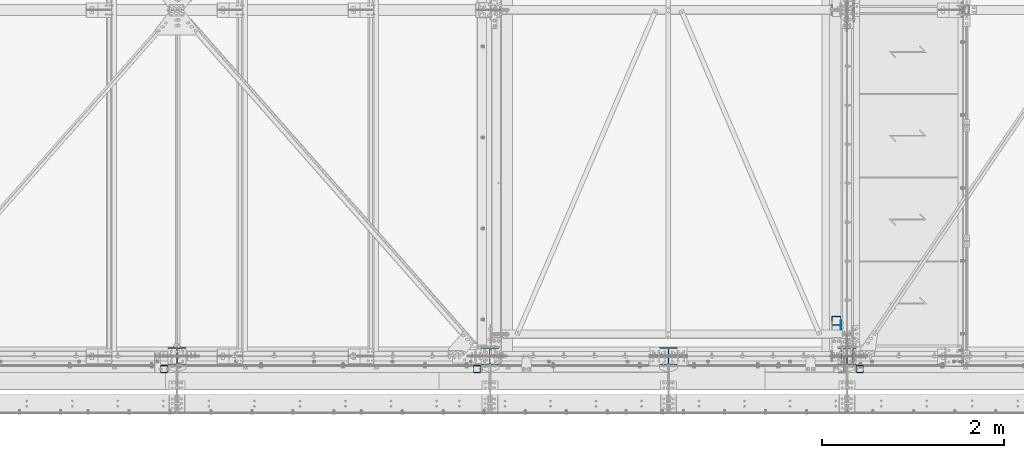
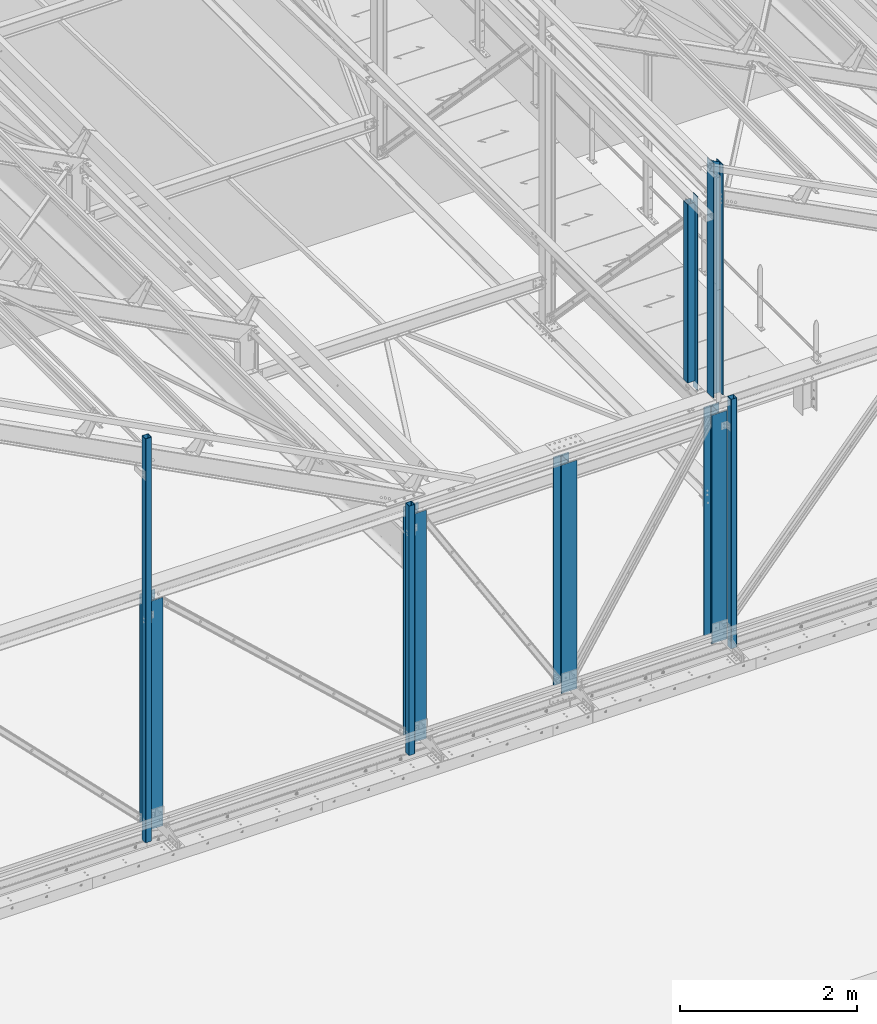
# One storey, part 8 of 362: 10 columns, 9 elements without a shape of their own.
"""IFC2X3 building model written with IfcOpenShell, lengths in millimetres."""

from ifc_helpers import new_model, si_unit, frame, origin_with_axes, origin_2d_with_axis, place, context, subcontext, project, spatial, rectangle, hollow_rectangle, i_section, extrude, clip, halfspace, material, type_object, element, aggregate, save


model = new_model("IFC2X3")

# Units and contexts
model_context = context("Model", 3, precision=1e-05, world=origin_with_axes())
body_context = subcontext(model_context, "Body", "Model", "MODEL_VIEW")
ifc_project = project(units=[si_unit("LENGTHUNIT", "METRE", prefix="MILLI"), si_unit("AREAUNIT", "SQUARE_METRE"), si_unit("VOLUMEUNIT", "CUBIC_METRE"), si_unit("MASSUNIT", "GRAM", prefix="KILO"), si_unit("TIMEUNIT", "SECOND"), si_unit("PLANEANGLEUNIT", "RADIAN"), si_unit("SOLIDANGLEUNIT", "STERADIAN"), si_unit("THERMODYNAMICTEMPERATUREUNIT", "DEGREE_CELSIUS"), si_unit("LUMINOUSINTENSITYUNIT", "LUMEN")], contexts=[model_context])

# Site, building, storey
site_placement = place(None, origin_with_axes())
site = spatial("IfcSite", under=ifc_project, at=site_placement, Name="Undefined", CompositionType="ELEMENT")
building_placement = place(site_placement, origin_with_axes())
building = spatial("IfcBuilding", under=site, at=building_placement, Name="Undefined", CompositionType="ELEMENT")
storey_placement = place(building_placement, origin_with_axes())
storey = spatial("IfcBuildingStorey", under=building, at=storey_placement, Name="Undefined", CompositionType="ELEMENT", Elevation=0.0)

# Assembly, column
assembly_1_placement = place(storey_placement, origin_with_axes())
assembly_1 = element("IfcElementAssembly", 1, at=assembly_1_placement, inside=storey, Name="MONTANT", AssemblyPlace="NOTDEFINED", PredefinedType="NOTDEFINED")
ifc_material_1 = material(Name="Undefined/S235-E24")
column_type_1 = type_object("IfcColumnType", Name="TUBE-C-100*100*4", PredefinedType="NOTDEFINED")
column_1_placement = place(assembly_1_placement, frame((23353.5001162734, 390.000078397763, 8555.00000000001), z_axis=(0.0, 0.0, 1.0), x_axis=(0.0, -1.0, 0.0)))
column_1 = element("IfcColumn", 2, at=column_1_placement, type_object=column_type_1, material=ifc_material_1, Name="MONTANT", ObjectType="TUBE-C-100*100*4", context=body_context, shape_type="SweptSolid", body=[
    extrude(hollow_rectangle(XDim=100.0, YDim=100.0, WallThickness=4.0, InnerFilletRadius=4.0, OuterFilletRadius=8.0, at=origin_2d_with_axis()), frame((0.0, 0.0, 2460.0), z_axis=(0.0, 0.0, -1.0), x_axis=(0.0, 1.0, 0.0)), (0.0, 0.0, 1.0), 2460.0),
])

assembly_2_placement = place(storey_placement, origin_with_axes())
assembly_2 = element("IfcElementAssembly", 3, at=assembly_2_placement, inside=storey, Name="MONTANT", AssemblyPlace="NOTDEFINED", PredefinedType="NOTDEFINED")
column_type_2 = type_object("IfcColumnType", Name="TUBE-C-80*80*4", PredefinedType="NOTDEFINED")
column_2_placement = place(assembly_2_placement, frame((23609.9999999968, -139.999999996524, 5109.99999998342), z_axis=(0.0, 0.0, 1.0), x_axis=(0.0, 1.0, 0.0)))
column_2 = element("IfcColumn", 4, at=column_2_placement, type_object=column_type_2, material=ifc_material_1, Name="MONTANT BARDAGE", ObjectType="TUBE-C-80*80*4", context=body_context, shape_type="SweptSolid", body=[
    extrude(hollow_rectangle(XDim=80.0, YDim=80.0, WallThickness=4.0, InnerFilletRadius=4.0, OuterFilletRadius=8.0, at=origin_2d_with_axis()), frame((0.0, 0.0, 3440.0), z_axis=(0.0, 0.0, -1.0), x_axis=(0.0, 1.0, 0.0)), (0.0, 0.0, 1.0), 3440.0),
])
aggregate(assembly_2, [column_2])

assembly_3_placement = place(storey_placement, origin_with_axes())
assembly_3 = element("IfcElementAssembly", 5, at=assembly_3_placement, inside=storey, Name="MONTANT", AssemblyPlace="NOTDEFINED", PredefinedType="NOTDEFINED")
column_3_placement = place(assembly_3_placement, frame((15974.9998811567, -140.000000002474, 5109.99999997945), z_axis=(0.0, 0.0, 1.0), x_axis=(0.0, 1.0, 0.0)))
column_3 = element("IfcColumn", 6, at=column_3_placement, type_object=column_type_2, material=ifc_material_1, Name="MONTANT BARDAGE", ObjectType="TUBE-C-80*80*4", context=body_context, shape_type="SweptSolid", body=[
    extrude(hollow_rectangle(XDim=80.0, YDim=80.0, WallThickness=4.0, InnerFilletRadius=4.0, OuterFilletRadius=8.0, at=origin_2d_with_axis()), frame((0.0, 0.0, 5570.00143646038), z_axis=(0.0, 0.0, -1.0), x_axis=(0.0, 1.0, 0.0)), (0.0, 0.0, 1.0), 5570.0),
])
aggregate(assembly_3, [column_3])

assembly_4_placement = place(storey_placement, origin_with_axes())
assembly_4 = element("IfcElementAssembly", 7, at=assembly_4_placement, inside=storey, Name="MONTANT", AssemblyPlace="NOTDEFINED", PredefinedType="NOTDEFINED")
column_4_placement = place(assembly_4_placement, frame((19409.9999999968, -139.999999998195, 5109.99999999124), z_axis=(0.0, 0.0, 1.0), x_axis=(0.0, 1.0, 0.0)))
column_4 = element("IfcColumn", 8, at=column_4_placement, type_object=column_type_2, material=ifc_material_1, Name="MONTANT BARDAGE", ObjectType="TUBE-C-80*80*4", context=body_context, shape_type="SweptSolid", body=[
    extrude(hollow_rectangle(XDim=80.0, YDim=80.0, WallThickness=4.0, InnerFilletRadius=4.0, OuterFilletRadius=8.0, at=origin_2d_with_axis()), frame((0.0, 0.0, 3440.0), z_axis=(0.0, 0.0, -1.0), x_axis=(0.0, 1.0, 0.0)), (0.0, 0.0, 1.0), 3440.0),
])
aggregate(assembly_4, [column_4])

assembly_5_placement = place(storey_placement, origin_with_axes())
assembly_5 = element("IfcElementAssembly", 9, at=assembly_5_placement, inside=storey, Name="MONTANT", AssemblyPlace="NOTDEFINED", PredefinedType="NOTDEFINED")
ifc_material_2 = material(Name="Undefined/S275-E28")
column_type_3 = type_object("IfcColumnType", Name="HEA140", PredefinedType="NOTDEFINED")
column_5_placement = place(assembly_5_placement, frame((23470.0, 0.0, 8560.0), z_axis=(0.0, 0.0, 1.0), x_axis=(-1.0, 0.0, 0.0)))
column_5 = element("IfcColumn", 10, at=column_5_placement, type_object=column_type_3, material=ifc_material_2, Name="MONTANT", ObjectType="HEA140", context=body_context, shape_type="Clipping", body=[
    clip(extrude(i_section(OverallWidth=140.0, OverallDepth=133.0, WebThickness=5.5, FlangeThickness=8.5, FilletRadius=12.0, at=origin_2d_with_axis()), frame((0.0, 0.0, 3251.41), z_axis=(0.0, 0.0, -1.0), x_axis=(0.0, 1.0, 0.0)), (0.0, 0.0, 1.0), 3251.41), halfspace(frame((-66.5, 69.9999999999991, 3171.22657322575), z_axis=(-0.460093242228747, -7.1029704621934e-09, 0.887870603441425), x_axis=(0.887870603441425, 0.0, 0.460093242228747)), False)),
])
aggregate(assembly_5, [column_5])

assembly_6_placement = place(storey_placement, origin_with_axes())
assembly_6 = element("IfcElementAssembly", 11, at=assembly_6_placement, inside=storey, Name="MONTANT", AssemblyPlace="NOTDEFINED", PredefinedType="NOTDEFINED")
column_type_4 = type_object("IfcColumnType", Name="HEA200", PredefinedType="NOTDEFINED")
column_6_placement = place(assembly_6_placement, frame((21510.0, 0.0, 5200.0), z_axis=(0.0, 0.0, 1.0), x_axis=(0.0, 1.0, 0.0)))
column_6 = element("IfcColumn", 12, at=column_6_placement, type_object=column_type_4, material=ifc_material_2, Name="MONTANT", ObjectType="HEA200", context=body_context, shape_type="SweptSolid", body=[
    extrude(i_section(OverallWidth=200.0, OverallDepth=190.0, WebThickness=6.5, FlangeThickness=10.0, FilletRadius=18.0, at=origin_2d_with_axis()), frame((0.0, 0.0, 3149.99931169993), z_axis=(0.0, 0.0, -1.0), x_axis=(0.0, 1.0, 0.0)), (0.0, 0.0, 1.0), 3150.0),
])
aggregate(assembly_6, [column_6])

assembly_7_placement = place(storey_placement, origin_with_axes())
assembly_7 = element("IfcElementAssembly", 13, at=assembly_7_placement, inside=storey, Name="MONTANT", AssemblyPlace="NOTDEFINED", PredefinedType="NOTDEFINED")
column_7_placement = place(assembly_7_placement, frame((23470.0, 0.0, 5200.0), z_axis=(0.0, 0.0, 1.0), x_axis=(0.0, 1.0, 0.0)))
column_7 = element("IfcColumn", 14, at=column_7_placement, type_object=column_type_4, material=ifc_material_2, Name="MONTANT", ObjectType="HEA200", context=body_context, shape_type="SweptSolid", body=[
    extrude(i_section(OverallWidth=200.0, OverallDepth=190.0, WebThickness=6.5, FlangeThickness=10.0, FilletRadius=18.0, at=origin_2d_with_axis()), frame((0.0, 0.0, 3149.99444626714), z_axis=(0.0, 0.0, -1.0), x_axis=(0.0, 1.0, 0.0)), (0.0, 0.0, 1.0), 3149.99),
])
aggregate(assembly_7, [column_7])

assembly_8_placement = place(storey_placement, origin_with_axes())
assembly_8 = element("IfcElementAssembly", 15, at=assembly_8_placement, inside=storey, Name="MONTANT", AssemblyPlace="NOTDEFINED", PredefinedType="NOTDEFINED")
column_8_placement = place(assembly_8_placement, frame((19550.0, 0.0, 5200.0), z_axis=(0.0, 0.0, 1.0), x_axis=(0.0, 1.0, 0.0)))
column_8 = element("IfcColumn", 16, at=column_8_placement, type_object=column_type_4, material=ifc_material_2, Name="MONTANT", ObjectType="HEA200", context=body_context, shape_type="SweptSolid", body=[
    extrude(i_section(OverallWidth=200.0, OverallDepth=190.0, WebThickness=6.5, FlangeThickness=10.0, FilletRadius=18.0, at=origin_2d_with_axis()), frame((0.0, 0.0, 3149.99444626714), z_axis=(0.0, 0.0, -1.0), x_axis=(0.0, 1.0, 0.0)), (0.0, 0.0, 1.0), 3149.99),
])
aggregate(assembly_8, [column_8])

assembly_9_placement = place(storey_placement, origin_with_axes())
assembly_9 = element("IfcElementAssembly", 17, at=assembly_9_placement, inside=storey, Name="MONTANT", AssemblyPlace="NOTDEFINED", PredefinedType="NOTDEFINED")
column_9_placement = place(assembly_9_placement, frame((16114.9984460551, 0.0, 5200.00068830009), z_axis=(0.0, 0.0, 1.0), x_axis=(0.0, 1.0, 0.0)))
column_9 = element("IfcColumn", 18, at=column_9_placement, type_object=column_type_4, material=ifc_material_2, Name="MONTANT", ObjectType="HEA200", context=body_context, shape_type="SweptSolid", body=[
    extrude(i_section(OverallWidth=200.0, OverallDepth=190.0, WebThickness=6.5, FlangeThickness=10.0, FilletRadius=18.0, at=origin_2d_with_axis()), frame((0.0, 0.0, 3149.99375796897), z_axis=(0.0, 0.0, -1.0), x_axis=(0.0, 1.0, 0.0)), (0.0, 0.0, 1.0), 3149.99),
])
aggregate(assembly_9, [column_9])

# Column
column_type_5 = type_object("IfcColumnType", Name="PL100*5", PredefinedType="NOTDEFINED")
column_10_placement = place(assembly_1_placement, frame((23406.0001056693, 340.000078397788, 8450.0), z_axis=(0.0, 0.0, 1.0), x_axis=(0.0, -1.0, 0.0)))
column_10 = element("IfcColumn", 19, at=column_10_placement, type_object=column_type_5, material=ifc_material_1, Name="FEUILLURE", ObjectType="PL100*5", context=body_context, shape_type="SweptSolid", body=[
    extrude(rectangle(XDim=5.0, YDim=100.0, at=origin_2d_with_axis()), frame((0.0, 0.0, 2670.0), z_axis=(0.0, 0.0, -1.0), x_axis=(0.0, 1.0, 0.0)), (0.0, 0.0, 1.0), 2670.0),
])

aggregate(assembly_1, [column_10, column_1])

save(model, "model.ifc")
